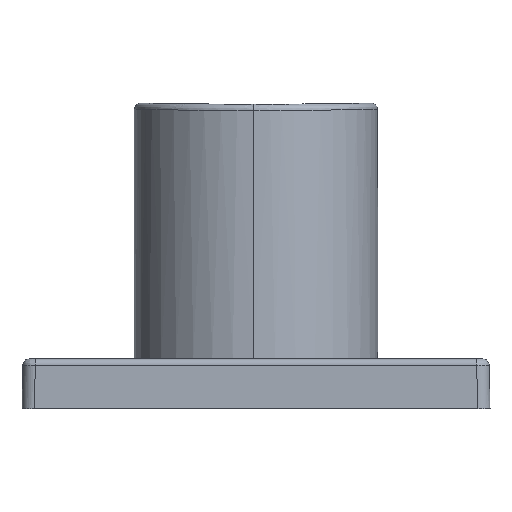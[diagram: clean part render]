
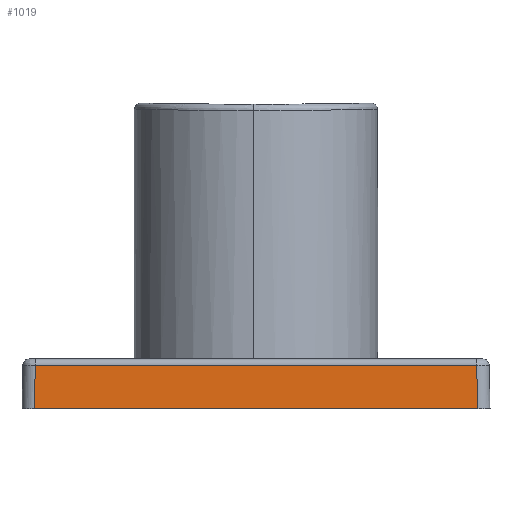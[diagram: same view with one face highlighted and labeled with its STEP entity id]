
A CAD part, front view. The second image highlights one B-rep face of the part: STEP entity #1019.
In plain terms, the highlighted planar face has unit normal (0, -1, 0.018).
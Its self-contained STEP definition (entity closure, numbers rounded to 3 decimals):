
#43 = ORIENTED_EDGE ( 'NONE', *, *, #845, .T. ) ;
#90 = VERTEX_POINT ( 'NONE', #1731 ) ;
#115 = VERTEX_POINT ( 'NONE', #2557 ) ;
#337 = AXIS2_PLACEMENT_3D ( 'NONE', #804, #1445, #1195 ) ;
#372 = CARTESIAN_POINT ( 'NONE',  ( -73., -75., 4. ) ) ;
#440 = VECTOR ( 'NONE', #2643, 1000. ) ;
#519 = CARTESIAN_POINT ( 'NONE',  ( -72.878, -74.878, 11.017 ) ) ;
#683 = DIRECTION ( 'NONE',  ( -0.017, 0.017, 1. ) ) ;
#759 = FACE_OUTER_BOUND ( 'NONE', #1639, .T. ) ;
#784 = VERTEX_POINT ( 'NONE', #1245 ) ;
#798 = VERTEX_POINT ( 'NONE', #372 ) ;
#804 = CARTESIAN_POINT ( 'NONE',  ( -37.5, -75., 4. ) ) ;
#845 = EDGE_CURVE ( 'NONE', #115, #798, #2392, .T. ) ;
#934 = ORIENTED_EDGE ( 'NONE', *, *, #1094, .F. ) ;
#1019 = ADVANCED_FACE ( 'NONE', ( #759 ), #1641, .T. ) ;
#1076 = VECTOR ( 'NONE', #1401, 1000. ) ;
#1094 = EDGE_CURVE ( 'NONE', #115, #784, #2678, .T. ) ;
#1195 = DIRECTION ( 'NONE',  ( 0., 0.017, 1. ) ) ;
#1245 = CARTESIAN_POINT ( 'NONE',  ( -2.122, -74.878, 11.017 ) ) ;
#1401 = DIRECTION ( 'NONE',  ( 1., 0., 0. ) ) ;
#1445 = DIRECTION ( 'NONE',  ( 0., -1., 0.017 ) ) ;
#1523 = DIRECTION ( 'NONE',  ( -0.017, -0.017, -1. ) ) ;
#1595 = CARTESIAN_POINT ( 'NONE',  ( -37.5, -75., 4. ) ) ;
#1639 = EDGE_LOOP ( 'NONE', ( #43, #2569, #1769, #934 ) ) ;
#1641 = PLANE ( 'NONE',  #337 ) ;
#1661 = VECTOR ( 'NONE', #1523, 1000. ) ;
#1731 = CARTESIAN_POINT ( 'NONE',  ( -2., -75., 4. ) ) ;
#1754 = CARTESIAN_POINT ( 'NONE',  ( -2., -75., 4. ) ) ;
#1769 = ORIENTED_EDGE ( 'NONE', *, *, #2073, .T. ) ;
#1777 = EDGE_CURVE ( 'NONE', #798, #90, #2200, .T. ) ;
#2073 = EDGE_CURVE ( 'NONE', #90, #784, #2566, .T. ) ;
#2200 = LINE ( 'NONE', #1595, #440 ) ;
#2278 = CARTESIAN_POINT ( 'NONE',  ( -37.5, -74.878, 11.017 ) ) ;
#2391 = VECTOR ( 'NONE', #683, 1000. ) ;
#2392 = LINE ( 'NONE', #519, #1661 ) ;
#2557 = CARTESIAN_POINT ( 'NONE',  ( -72.878, -74.878, 11.017 ) ) ;
#2566 = LINE ( 'NONE', #1754, #2391 ) ;
#2569 = ORIENTED_EDGE ( 'NONE', *, *, #1777, .T. ) ;
#2643 = DIRECTION ( 'NONE',  ( 1., 0., 0. ) ) ;
#2678 = LINE ( 'NONE', #2278, #1076 ) ;
